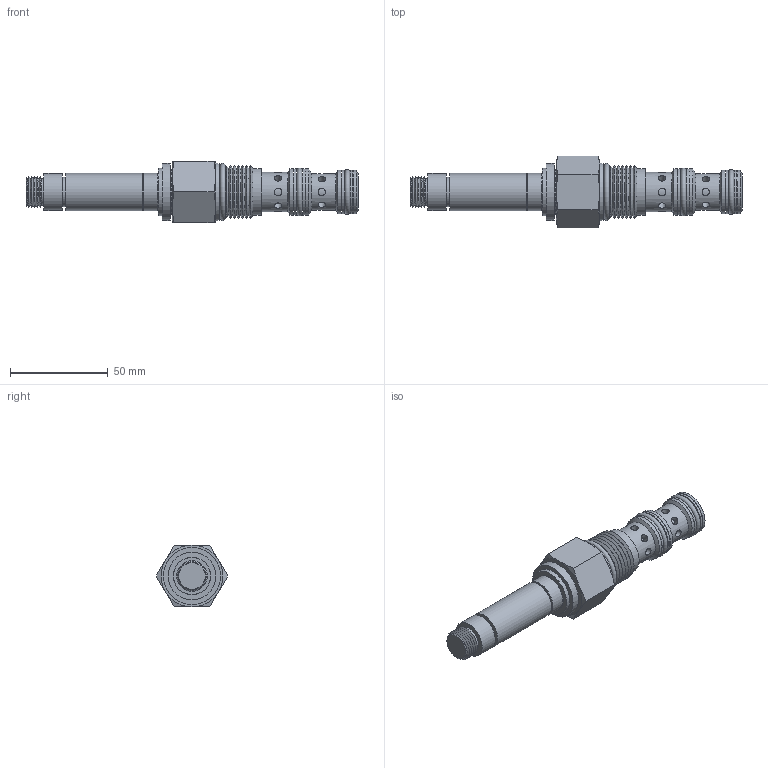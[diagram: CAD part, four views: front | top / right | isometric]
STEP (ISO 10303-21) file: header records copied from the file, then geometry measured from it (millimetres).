
FILE_DESCRIPTION(/* description */ ('HTU-S3F-00'),/* implementation_level */ '2;1');
FILE_NAME(/* name */ 'P:\EARS\EAR16xx\EAR1683 - catalog pages changes\Group1_Distribution 11_22_22\RTeck Agency_Tom\_step files\HTUS3F00.stp',/* time_stamp */ '2023-01-03T09:00:25-06:00',/* author */ ('Michael'),/* organization */ (''),/* preprocessor_version */ 'ST-DEVELOPER v17.2',/* originating_system */ 'Autodesk Inventor 2019',/* authorisation */ '');
FILE_SCHEMA (('AUTOMOTIVE_DESIGN { 1 0 10303 214 3 1 1 }'));
Length unit declared in the file: inch
Products named in the file (1): 88210011
Bounding box: 170.1 x 36.66 x 31.75 mm (x, y, z)
Volume: 69118.2 mm3; surface area: 21607.1 mm2
Topology: 8 solids, 8 shells, 150 faces, 277 edges, 171 vertices
Faces by surface type: cylinder 63, cone 45, plane 36, torus 6
Full cylindrical faces by diameter (mm): 3.81 x16, 12.69 x1, 13.589 x1, 14.935 x1, 15.443 x2, 16.866 x1, 16.98 x1, 17.704 x1, 17.755 x2, 18.796 x1, 18.974 x1, 19.025 x2, 19.304 x1, 19.355 x2, 20.015 x1, 22.073 x2, 22.149 x2, 22.987 x1, 23.673 x2, 23.724 x2, 23.876 x1, 24.003 x1, 24.435 x1, 29.21 x1
Entity records: 4914 total; most frequent: CARTESIAN_POINT 1720, DIRECTION 638, ORIENTED_EDGE 554, EDGE_CURVE 277, AXIS2_PLACEMENT_3D 275, EDGE_LOOP 192, VERTEX_POINT 171, STYLED_ITEM 158
